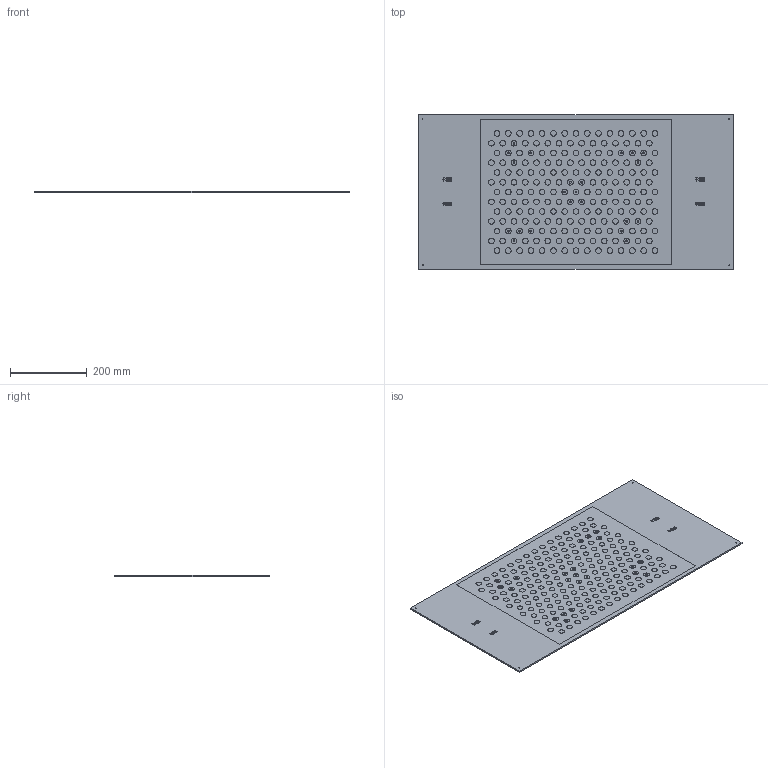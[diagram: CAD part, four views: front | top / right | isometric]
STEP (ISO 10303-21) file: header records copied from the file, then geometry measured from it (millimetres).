
FILE_DESCRIPTION(/* description */ (''),/* implementation_level */ '2;1');
FILE_NAME(/* name */ 'C:\#Vault-WorkDir\Konstruktions-Dokumente\Projekte\VISOR\Katalogzeichnungen\153-13576_ZCP 500-13x15-X01_NEU.stp',/* time_stamp */ '2022-06-28T11:59:35+02:00',/* author */ ('SensoPart'),/* organization */ ('SensoPart'),/* preprocessor_version */ 'ST-DEVELOPER v18.1',/* originating_system */ 'Autodesk Inventor 2022',/* authorisation */ '');
FILE_SCHEMA (('AUTOMOTIVE_DESIGN { 1 0 10303 214 3 1 1 }'));
Length unit declared in the file: millimetre
Products named in the file (1): GH-ENG-0028196
Bounding box: 820 x 403 x 4.05 mm (x, y, z)
Volume: 1329697.5 mm3; surface area: 671295.9 mm2
Topology: 1 solids, 1 shells, 1238 faces, 2864 edges, 1953 vertices
Faces by surface type: plane 603, bspline 413, cylinder 222
Full cylindrical faces by diameter (mm): 4.886 x22, 14.685 x190
Entity records: 38062 total; most frequent: CARTESIAN_POINT 11216, ORIENTED_EDGE 5574, DIRECTION 4177, EDGE_CURVE 2787, VERTEX_POINT 1858, EDGE_LOOP 1545, LINE 1517, VECTOR 1517
